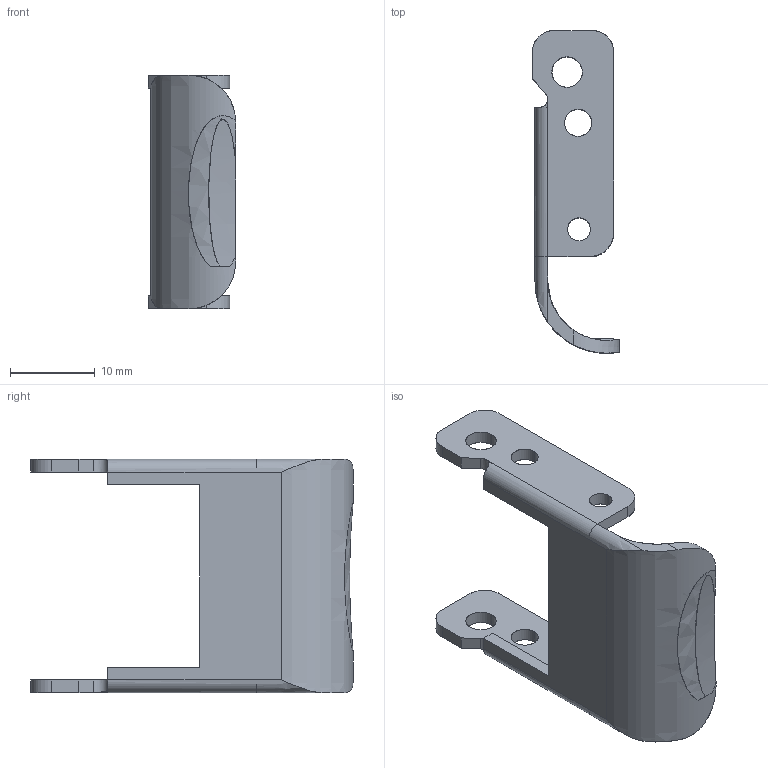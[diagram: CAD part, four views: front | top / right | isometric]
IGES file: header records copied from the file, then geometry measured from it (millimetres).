
Start section: SolidWorks IGES FILE using analytic representation for surfaces
Global section: file name: C:\Documents and Settings\lecoutey\Bureau\GP 16\10.010.10.IGS; native system: SolidWorks 2004 by SolidWorks Corporation; preprocessor: Version 5.3; author: lecoutey; date: 050329.133833; units: millimetre
Bounding box: 10.3 x 38.13 x 27.6 mm (x, y, z)
Surface area: 2531.4 mm2 (no closed solid volume)
Topology: 0 solids, 0 shells, 60 faces, 1003 edges, 1002 vertices
Faces by surface type: bspline 33, revolution 27
